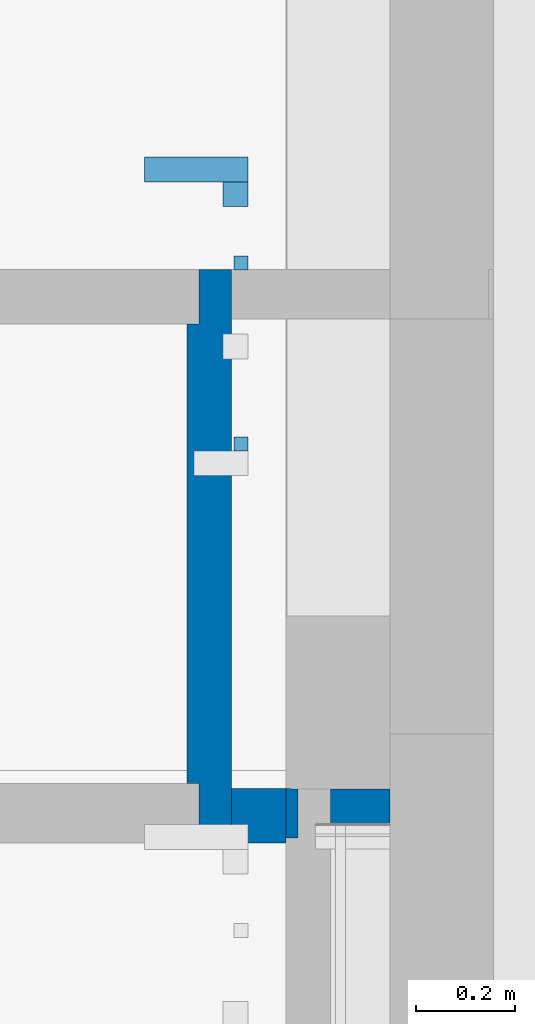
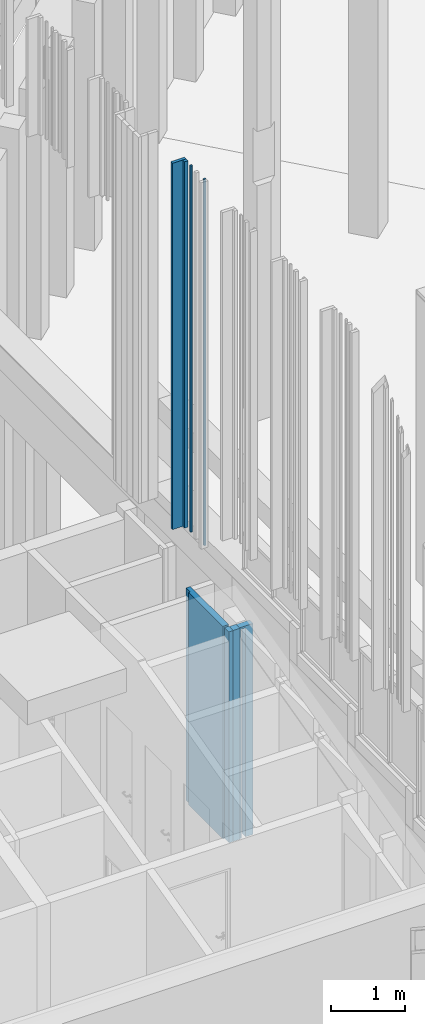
# One storey, part 127 of 390: 7 walls.
"""IFC2X3 building model written with IfcOpenShell, lengths in millimetres."""

from ifc_helpers import new_model, entity, si_unit, converted_unit, derived_unit, money_unit, direction, frame, origin_with_axes, place, context, subcontext, project, spatial, faceted_brep, material, material_list, type_object, element, save


model = new_model("IFC2X3")

# Units and contexts
model_context = context("Model", 3, precision=1e-05, world=origin_with_axes(), true_north=direction((0.0, 1.0)))
body_context = subcontext(model_context, "Body", "Model", "MODEL_VIEW")
ifc_project = project(units=[si_unit("LENGTHUNIT", "METRE", prefix="MILLI"), si_unit("AREAUNIT", "SQUARE_METRE"), si_unit("VOLUMEUNIT", "CUBIC_METRE"), converted_unit("PLANEANGLEUNIT", "DEGREE", entity("IfcPlaneAngleMeasure", 0.0174532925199), si_unit("PLANEANGLEUNIT", "RADIAN"), dimensions=[0, 0, 0, 0, 0, 0, 0]), si_unit("SOLIDANGLEUNIT", "STERADIAN"), money_unit("EUR"), converted_unit("TIMEUNIT", "Year", entity("IfcTimeMeasure", 31556926.0), si_unit("TIMEUNIT", "SECOND"), dimensions=[0, 0, 1, 0, 0, 0, 0]), si_unit("MASSUNIT", "GRAM", prefix="KILO"), si_unit("THERMODYNAMICTEMPERATUREUNIT", "DEGREE_CELSIUS"), si_unit("LUMINOUSINTENSITYUNIT", "LUMEN"), si_unit("ENERGYUNIT", "JOULE", prefix="MEGA"), derived_unit("THERMALCONDUCTANCEUNIT", [(si_unit("POWERUNIT", "WATT"), 1), (si_unit("LENGTHUNIT", "METRE"), -1), (si_unit("THERMODYNAMICTEMPERATUREUNIT", "KELVIN"), -1)]), derived_unit("SPECIFICHEATCAPACITYUNIT", [(si_unit("ENERGYUNIT", "JOULE"), 1), (si_unit("MASSUNIT", "GRAM", prefix="KILO"), -1), (si_unit("THERMODYNAMICTEMPERATUREUNIT", "KELVIN"), -1)]), derived_unit("MASSDENSITYUNIT", [(si_unit("MASSUNIT", "GRAM", prefix="KILO"), 1), (si_unit("VOLUMEUNIT", "CUBIC_METRE"), -1)])], contexts=[model_context])

# Site, building, storey
site_placement = place(None, origin_with_axes())
site = spatial("IfcSite", under=ifc_project, at=site_placement, Name="Site", CompositionType="ELEMENT")
building_placement = place(site_placement, origin_with_axes())
building = spatial("IfcBuilding", under=site, at=building_placement, Name="Building", CompositionType="ELEMENT")
storey_placement = place(building_placement, origin_with_axes())
storey = spatial("IfcBuildingStorey", under=building, at=storey_placement, Name="1 korrus", CompositionType="ELEMENT", Elevation=0.0)

# Walls
ifc_material_1 = material(Name="Müüriplokk - Konstuktsioon")
wall_type_1 = type_object("IfcWallType", Name="SS-09", PredefinedType="NOTDEFINED")
wall_1_placement = place(storey_placement, frame((122489.999999, 64260.00001, -620.0), z_axis=(0.0, 0.0, 1.0), x_axis=(1.0, 0.0, 0.0)))
element("IfcWall", 1, at=wall_1_placement, inside=storey, type_object=wall_type_1, material=ifc_material_1, Name="SS-09", context=body_context, shape_type="Brep", body=[
    faceted_brep([(209.999996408, -100.0, 0.0), (210.000008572, -1.43147970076, 0.0), (210.000008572, -1.43147970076, 3494.01683805), (209.999996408, -100.0, 3494.01683805), (90.0000021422, -100.0, 0.0), (90.0000021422, -1.43147970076, 0.0), (10.000008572, -1.43147970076, 0.0), (10.000008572, -1.43147970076, 3494.01683805), (90.0000021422, -1.43147970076, 3465.34321287), (24.0000021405, -1.43147970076, 3465.34321287), (24.0000021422, -1.43147970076, 0.0), (10.000008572, 0.0, 3494.01683805), (0.0, 0.0, 3494.01683805), (0.0, -100.0, 3494.01683805), (24.0000021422, -100.0, 0.0), (24.000002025, -100.0, 3465.34321287), (90.0000021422, -100.0, 3465.34321287), (0.0, -100.0, 0.0), (10.000008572, -1.00479269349e-06, 0.0), (0.0, 0.0, 0.0)], [[[0, 1, 2, 3]], [[4, 5, 1, 0]], [[6, 7, 2, 1, 5, 8, 9, 10]], [[2, 7, 11, 12, 13, 3]], [[14, 15, 16, 4, 0, 3, 13, 17]], [[16, 8, 5, 4]], [[6, 18, 11, 7]], [[15, 9, 8, 16]], [[14, 10, 9, 15]], [[18, 6, 10, 14, 17, 19]], [[12, 11, 18, 19]], [[13, 12, 19, 17]]]),
])
ifc_material_2 = material(Name="Site specified")
wall_type_2 = type_object("IfcWallType", Name="Puitfassaadi ribistik", PredefinedType="NOTDEFINED")
wall_2_placement = place(storey_placement, frame((122398.999994, 65323.0003213, 3795.0), z_axis=(0.0, 0.0, 1.0), x_axis=(-4.22595063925e-09, 1.0, 0.0)))
element("IfcWall", 2, at=wall_2_placement, inside=storey, type_object=wall_type_2, material=ifc_material_2, Name="Site specified", context=body_context, shape_type="Brep", body=[
    faceted_brep([(14.0, 14.0, 6070.0), (14.0, 14.0, 0.0), (-14.0, 14.0, 0.0), (-14.0, 14.0, 6070.0), (14.0, -14.0, 6070.0), (14.0, -14.0, 0.0), (-14.0, -14.0, 0.0), (-14.0, -14.0, 6070.0)], [[[0, 1, 2, 3]], [[4, 5, 1, 0]], [[2, 1, 5, 6]], [[3, 2, 6, 7]], [[4, 0, 3, 7]], [[7, 6, 5, 4]]]),
])
wall_3_placement = place(storey_placement, frame((122387.999993, 65462.0003213, 3795.0), z_axis=(0.0, 0.0, 1.0), x_axis=(-4.22595063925e-09, 1.0, 0.0)))
element("IfcWall", 3, at=wall_3_placement, inside=storey, type_object=wall_type_2, material=ifc_material_2, Name="Site specified", context=body_context, shape_type="Brep", body=[
    faceted_brep([(25.0, 25.0, 6070.0), (25.0, 25.0, 0.0), (-25.0, 25.0, 0.0), (-25.0, 25.0, 6070.0), (25.0, -25.0, 6070.0), (25.0, -25.0, 0.0), (-25.0, -25.0, 0.0), (-25.0, -25.0, 6070.0)], [[[0, 1, 2, 3]], [[4, 5, 1, 0]], [[2, 1, 5, 6]], [[3, 2, 6, 7]], [[4, 0, 3, 7]], [[7, 6, 5, 4]]]),
])
wall_4_placement = place(storey_placement, frame((122398.999995, 64957.0003213, 3795.0), z_axis=(0.0, 0.0, 1.0), x_axis=(-4.22595063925e-09, 1.0, 0.0)))
element("IfcWall", 4, at=wall_4_placement, inside=storey, type_object=wall_type_2, material=ifc_material_2, Name="Site specified", context=body_context, shape_type="Brep", body=[
    faceted_brep([(14.0, 14.0, 6070.0), (14.0, 14.0, 0.0), (-14.0, 14.0, 0.0), (-14.0, 14.0, 6070.0), (14.0, -14.0, 6070.0), (14.0, -14.0, 0.0), (-14.0, -14.0, 0.0), (-14.0, -14.0, 6070.0)], [[[0, 1, 2, 3]], [[4, 5, 1, 0]], [[2, 1, 5, 6]], [[3, 2, 6, 7]], [[4, 0, 3, 7]], [[7, 6, 5, 4]]]),
])
wall_5_placement = place(storey_placement, frame((122308.499993, 65512.000321, 3795.0), z_axis=(0.0, 0.0, 1.0), x_axis=(-4.22595063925e-09, 1.0, 0.0)))
element("IfcWall", 5, at=wall_5_placement, inside=storey, type_object=wall_type_2, material=ifc_material_2, Name="Site specified", context=body_context, shape_type="Brep", body=[
    faceted_brep([(25.0, 104.5, 6070.0), (25.0, 104.5, 0.0), (-25.0, 104.5, 0.0), (-25.0, 104.5, 6070.0), (25.0, -104.5, 6070.0), (25.0, -104.5, 0.0), (-25.0, -104.5, 0.0), (-25.0, -104.5, 6070.0)], [[[0, 1, 2, 3]], [[4, 5, 1, 0]], [[2, 1, 5, 6]], [[3, 2, 6, 7]], [[4, 0, 3, 7]], [[7, 6, 5, 4]]]),
])
ifc_material_3 = material(Name="Krohv - Lubjakivi")
ifc_material_list_1 = material_list([ifc_material_1, ifc_material_3])
wall_type_3 = type_object("IfcWallType", Name="SS-08", PredefinedType="NOTDEFINED")
wall_6_placement = place(storey_placement, frame((122379.999999, 64260.00001, -620.0), z_axis=(0.0, 0.0, 1.0), x_axis=(1.0, 0.0, 0.0)))
element("IfcWall", 6, at=wall_6_placement, inside=storey, type_object=wall_type_3, material=ifc_material_list_1, Name="SS-08", context=body_context, shape_type="Brep", body=[
    faceted_brep([(0.0, 0.0, 3494.01683805), (0.0, -100.0, 3494.01683805), (110.0, -100.0, 3494.01683805), (110.0, 0.0, 3494.01683805), (0.0, 0.0, 0.0), (0.0, -100.0, 0.0), (110.0, -100.0, 0.0), (110.0, 0.0, 0.0)], [[[0, 1, 2, 3]], [[4, 5, 1, 0]], [[1, 5, 6, 2]], [[7, 3, 2, 6]], [[4, 0, 3, 7]], [[5, 4, 7, 6]]]),
    faceted_brep([(0.0, -100.0, 3494.01683805), (0.0, -110.0, 3494.01683805), (110.0, -110.0, 3494.01683805), (110.0, -100.0, 3494.01683805), (0.0, -100.0, 0.0), (0.0, -110.0, 0.0), (110.0, -110.0, 0.0), (110.0, -100.0, 0.0)], [[[0, 1, 2, 3]], [[4, 5, 1, 0]], [[1, 5, 6, 2]], [[7, 3, 2, 6]], [[4, 0, 3, 7]], [[5, 4, 7, 6]]]),
])
ifc_material_4 = material(Name="Kipsplaat - Veekindel")
ifc_material_5 = material(Name="Teras")
ifc_material_list_2 = material_list([ifc_material_4, ifc_material_4, ifc_material_5])
wall_type_4 = type_object("IfcWallType", Name="SS-14", PredefinedType="NOTDEFINED")
wall_7_placement = place(storey_placement, frame((122289.999999, 64270.00001, -620.0), z_axis=(0.0, 0.0, 1.0), x_axis=(0.0, 1.0, 0.0)))
element("IfcWall", 7, at=wall_7_placement, inside=storey, type_object=wall_type_4, material=ifc_material_list_2, Name="SS-14", context=body_context, shape_type="Brep", body=[
    faceted_brep([(0.0, 0.0, 3494.01683805), (0.0, 0.0, 0.0), (0.0, -12.0, 0.0), (0.0, -12.0, 3494.01683805), (0.0, -12.0, 3520.23675973), (0.0, 0.0, 3520.23675973), (930.000000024, 0.0, 3520.23675986), (930.000000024, 0.0, 0.0), (930.000000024, -12.0, 0.0), (930.000000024, -12.0, 3520.23675986)], [[[0, 1, 2, 3, 4, 5]], [[1, 0, 5, 6, 7]], [[2, 1, 7, 8]], [[3, 2, 8, 9, 4]], [[6, 5, 4, 9]], [[6, 9, 8, 7]]]),
    faceted_brep([(0.0, -12.0, 3494.01683805), (0.0, -12.0, 0.0), (0.0, -24.0, 0.0), (0.0, -24.0, 3494.01683805), (0.0, -24.0, 3520.23675973), (0.0, -12.0, 3520.23675973), (930.000000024, -12.0, 3520.23675986), (930.000000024, -12.0, 0.0), (930.000000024, -24.0, 0.0), (930.000000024, -24.0, 3520.23675986)], [[[0, 1, 2, 3, 4, 5]], [[1, 0, 5, 6, 7]], [[2, 1, 7, 8]], [[3, 2, 8, 9, 4]], [[6, 5, 4, 9]], [[6, 9, 8, 7]]]),
    faceted_brep([(0.0, -24.0, 3520.23675973), (0.0, -90.0, 3520.23675973), (1040.00000002, -90.0, 3520.23675988), (1040.00000002, -24.0, 3520.23675988), (0.0, -90.0, 3494.01683805), (0.0, -24.0, 3494.01683805), (-120.0, -90.0, 3494.01683805), (-120.0, -90.0, 0.0), (1040.00000002, -90.0, 0.0), (1040.00000002, -24.0, 0.0), (-120.0, -24.0, 0.0), (-120.0, -24.0, 3494.01683805)], [[[0, 1, 2, 3]], [[4, 1, 0, 5]], [[4, 6, 7, 8, 2, 1]], [[2, 8, 9, 3]], [[5, 0, 3, 9, 10, 11]], [[6, 4, 5, 11]], [[6, 11, 10, 7]], [[7, 10, 9, 8]]]),
])

save(model, "model.ifc")
